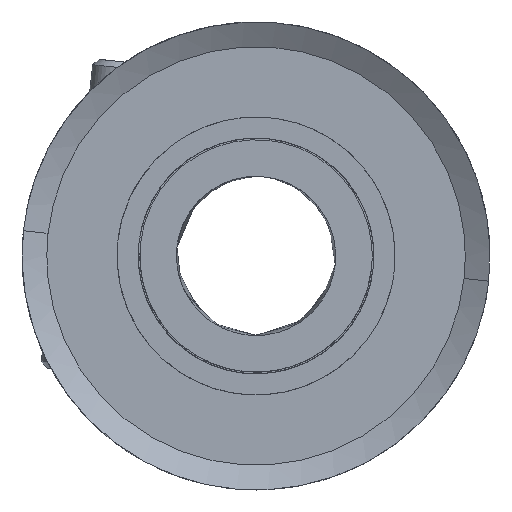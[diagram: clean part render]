
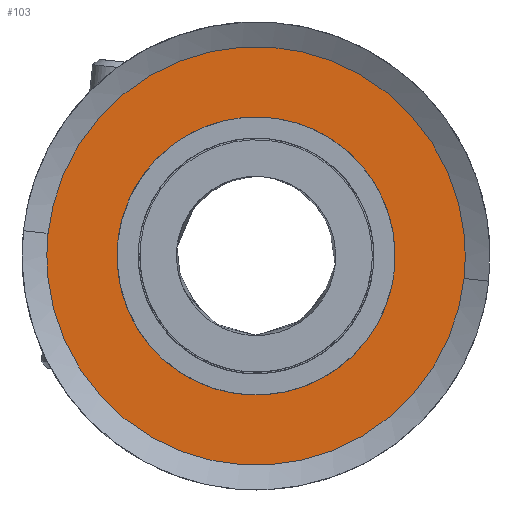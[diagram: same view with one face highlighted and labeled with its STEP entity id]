
A CAD part, front view. The second image highlights one B-rep face of the part: STEP entity #103.
In plain terms, the highlighted planar face has unit normal (0, -1, 0) as drawn and (0, 1, 0) by its records, which use the part's own axes.
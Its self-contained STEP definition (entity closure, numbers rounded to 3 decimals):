
#103=ADVANCED_FACE('',(#254,#174),#2216,.T.);
#174=FACE_BOUND('',#405,.T.);
#254=FACE_OUTER_BOUND('',#404,.T.);
#404=EDGE_LOOP('',(#971,#972));
#405=EDGE_LOOP('',(#973,#974));
#971=ORIENTED_EDGE('',*,*,#1276,.T.);
#972=ORIENTED_EDGE('',*,*,#1394,.T.);
#973=ORIENTED_EDGE('',*,*,#1422,.T.);
#974=ORIENTED_EDGE('',*,*,#1284,.F.);
#1276=EDGE_CURVE('',#2022,#2023,#1607,.T.);
#1284=EDGE_CURVE('',#2028,#2029,#1611,.T.);
#1394=EDGE_CURVE('',#2023,#2022,#1683,.T.);
#1422=EDGE_CURVE('',#2028,#2029,#1692,.T.);
#1607=(
BOUNDED_CURVE()
B_SPLINE_CURVE(2,(#4922,#4923,#4924,#4925,#4926),.UNSPECIFIED.,.F.,.F.)
B_SPLINE_CURVE_WITH_KNOTS((3,2,3),(-20.642,-10.321,
0.),.UNSPECIFIED.)
CURVE()
GEOMETRIC_REPRESENTATION_ITEM()
RATIONAL_B_SPLINE_CURVE((1.,0.707,1.,0.707,1.))
REPRESENTATION_ITEM('')
);
#1611=(
BOUNDED_CURVE()
B_SPLINE_CURVE(2,(#4946,#4947,#4948,#4949,#4950),.UNSPECIFIED.,.F.,.F.)
B_SPLINE_CURVE_WITH_KNOTS((3,2,3),(0.,6.857,13.713),
 .UNSPECIFIED.)
CURVE()
GEOMETRIC_REPRESENTATION_ITEM()
RATIONAL_B_SPLINE_CURVE((1.,0.707,1.,0.707,1.))
REPRESENTATION_ITEM('')
);
#1683=(
BOUNDED_CURVE()
B_SPLINE_CURVE(2,(#5359,#5360,#5361,#5362,#5363),.UNSPECIFIED.,.F.,.F.)
B_SPLINE_CURVE_WITH_KNOTS((3,2,3),(-20.642,-10.321,
0.),.UNSPECIFIED.)
CURVE()
GEOMETRIC_REPRESENTATION_ITEM()
RATIONAL_B_SPLINE_CURVE((1.,0.707,1.,0.707,1.))
REPRESENTATION_ITEM('')
);
#1692=(
BOUNDED_CURVE()
B_SPLINE_CURVE(2,(#5426,#5427,#5428,#5429,#5430),.UNSPECIFIED.,.F.,.F.)
B_SPLINE_CURVE_WITH_KNOTS((3,2,3),(-13.713,-6.857,
0.),.UNSPECIFIED.)
CURVE()
GEOMETRIC_REPRESENTATION_ITEM()
RATIONAL_B_SPLINE_CURVE((1.,0.707,1.,0.707,1.))
REPRESENTATION_ITEM('')
);
#2022=VERTEX_POINT('',#4487);
#2023=VERTEX_POINT('',#4488);
#2028=VERTEX_POINT('',#4493);
#2029=VERTEX_POINT('',#4494);
#2216=PLANE('',#2373);
#2373=AXIS2_PLACEMENT_3D('',#3402,#2402,$);
#2402=DIRECTION('',(0.,1.,0.));
#3402=CARTESIAN_POINT('',(168.495,142.043,449.461));
#4487=CARTESIAN_POINT('',(168.951,142.043,441.481));
#4488=CARTESIAN_POINT('',(182.015,142.043,440.063));
#4493=CARTESIAN_POINT('',(179.823,142.043,440.301));
#4494=CARTESIAN_POINT('',(171.143,142.043,441.243));
#4922=CARTESIAN_POINT('',(168.951,142.043,441.481));
#4923=CARTESIAN_POINT('',(169.659,142.043,448.013));
#4924=CARTESIAN_POINT('',(176.192,142.043,447.304));
#4925=CARTESIAN_POINT('',(182.724,142.043,446.596));
#4926=CARTESIAN_POINT('',(182.015,142.043,440.063));
#4946=CARTESIAN_POINT('',(179.823,142.043,440.301));
#4947=CARTESIAN_POINT('',(179.352,142.043,435.962));
#4948=CARTESIAN_POINT('',(175.012,142.043,436.433));
#4949=CARTESIAN_POINT('',(170.673,142.043,436.903));
#4950=CARTESIAN_POINT('',(171.143,142.043,441.243));
#5359=CARTESIAN_POINT('',(182.015,142.043,440.063));
#5360=CARTESIAN_POINT('',(181.307,142.043,433.531));
#5361=CARTESIAN_POINT('',(174.774,142.043,434.24));
#5362=CARTESIAN_POINT('',(168.242,142.043,434.949));
#5363=CARTESIAN_POINT('',(168.951,142.043,441.481));
#5426=CARTESIAN_POINT('',(179.823,142.043,440.301));
#5427=CARTESIAN_POINT('',(180.293,142.043,444.641));
#5428=CARTESIAN_POINT('',(175.954,142.043,445.112));
#5429=CARTESIAN_POINT('',(171.614,142.043,445.582));
#5430=CARTESIAN_POINT('',(171.143,142.043,441.243));
